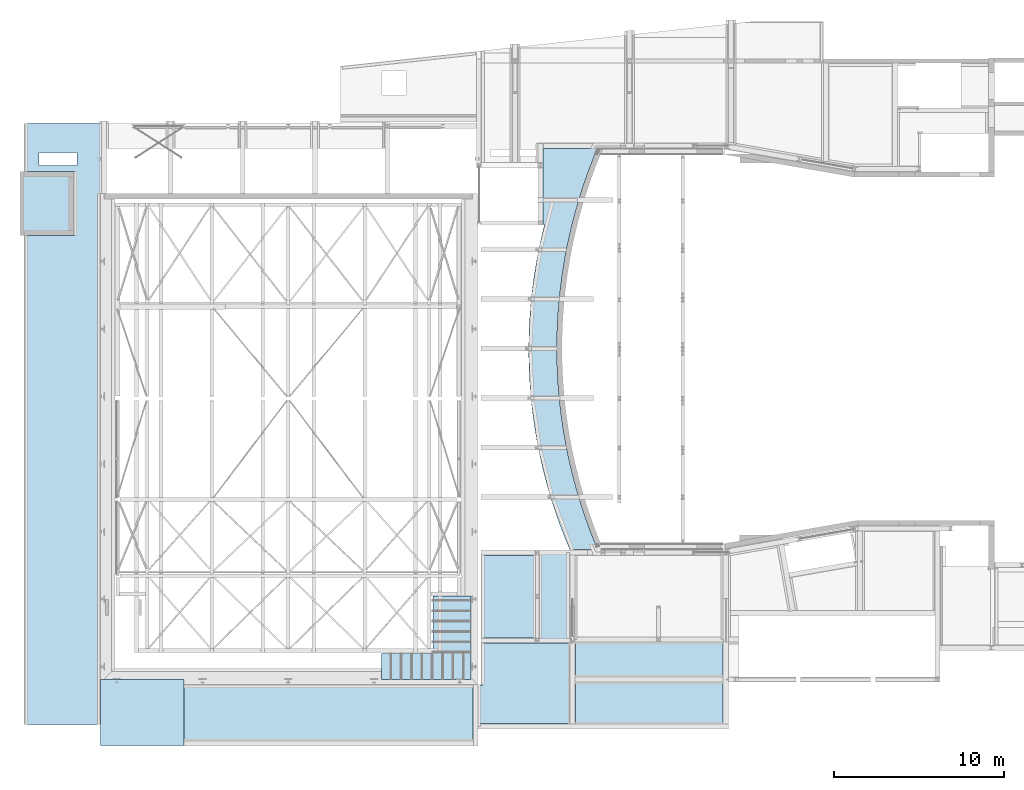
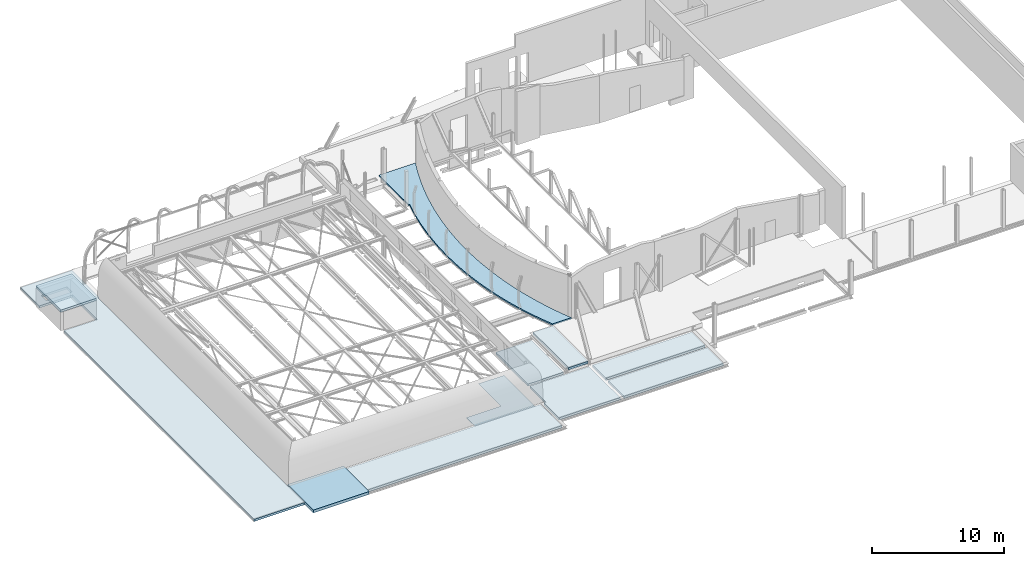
# One storey, part 29 of 38: 8 slabs, 14 openings.
"""IFC2X3 building model written with IfcOpenShell, lengths in millimetres."""

from ifc_helpers import new_model, entity, si_unit, converted_unit, derived_unit, direction, frame, frame_2d, origin, origin_2d_with_axis, place, context, subcontext, project, spatial, polyline, circle_curve, parameter, trimmed, segment, composite_curve, rectangle, outline, extrude, faceted_brep, material, layer, layer_set, layer_usage, type_object, element, save


model = new_model("IFC2X3")

# Units and contexts
model_context = context("Model", 3, precision=0.01, world=origin(), true_north=direction((6.12303176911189e-17, 1.0)))
body_context = subcontext(model_context, "Body", "Model", "MODEL_VIEW")
ifc_project = project(units=[si_unit("LENGTHUNIT", "METRE", prefix="MILLI"), si_unit("AREAUNIT", "SQUARE_METRE", prefix="MILLI"), si_unit("VOLUMEUNIT", "CUBIC_METRE"), converted_unit("PLANEANGLEUNIT", "DEGREE", entity("IfcRatioMeasure", 0.0174532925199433), si_unit("PLANEANGLEUNIT", "RADIAN"), dimensions=[0, 0, 0, 0, 0, 0, 0]), si_unit("MASSUNIT", "GRAM", prefix="KILO"), derived_unit("MASSDENSITYUNIT", [(si_unit("MASSUNIT", "GRAM", prefix="KILO"), 1), (si_unit("LENGTHUNIT", "METRE"), -3)]), derived_unit("MOMENTOFINERTIAUNIT", [(si_unit("LENGTHUNIT", "METRE"), 4)]), si_unit("TIMEUNIT", "SECOND"), si_unit("FREQUENCYUNIT", "HERTZ"), si_unit("THERMODYNAMICTEMPERATUREUNIT", "DEGREE_CELSIUS"), derived_unit("THERMALTRANSMITTANCEUNIT", [(si_unit("MASSUNIT", "GRAM", prefix="KILO"), 1), (si_unit("THERMODYNAMICTEMPERATUREUNIT", "KELVIN"), -1), (si_unit("TIMEUNIT", "SECOND"), -3)]), derived_unit("VOLUMETRICFLOWRATEUNIT", [(si_unit("LENGTHUNIT", "METRE"), 3), (si_unit("TIMEUNIT", "SECOND"), -1)]), si_unit("ELECTRICCURRENTUNIT", "AMPERE"), si_unit("ELECTRICVOLTAGEUNIT", "VOLT"), si_unit("POWERUNIT", "WATT"), si_unit("FORCEUNIT", "NEWTON", prefix="KILO"), si_unit("ILLUMINANCEUNIT", "LUX"), si_unit("LUMINOUSFLUXUNIT", "LUMEN"), si_unit("LUMINOUSINTENSITYUNIT", "CANDELA"), derived_unit("USERDEFINED", [(si_unit("MASSUNIT", "GRAM", prefix="KILO"), -1), (si_unit("LENGTHUNIT", "METRE"), -2), (si_unit("TIMEUNIT", "SECOND"), 3), (si_unit("LUMINOUSFLUXUNIT", "LUMEN"), 1)]), derived_unit("LINEARVELOCITYUNIT", [(si_unit("LENGTHUNIT", "METRE"), 1), (si_unit("TIMEUNIT", "SECOND"), -1)]), si_unit("PRESSUREUNIT", "PASCAL"), derived_unit("USERDEFINED", [(si_unit("LENGTHUNIT", "METRE"), -2), (si_unit("MASSUNIT", "GRAM", prefix="KILO"), 1), (si_unit("TIMEUNIT", "SECOND"), -2)]), derived_unit("LINEARFORCEUNIT", [(si_unit("MASSUNIT", "GRAM", prefix="KILO"), 1), (si_unit("LENGTHUNIT", "METRE"), 1), (si_unit("TIMEUNIT", "SECOND"), -2), (si_unit("LENGTHUNIT", "METRE"), -1)]), derived_unit("PLANARFORCEUNIT", [(si_unit("MASSUNIT", "GRAM", prefix="KILO"), 1), (si_unit("LENGTHUNIT", "METRE"), 1), (si_unit("TIMEUNIT", "SECOND"), -2), (si_unit("LENGTHUNIT", "METRE"), -2)])], contexts=[model_context])

# Site, building, storey
site_placement = place(None, origin())
site = spatial("IfcSite", under=ifc_project, at=site_placement, Name="Theater aan de Parade", CompositionType="ELEMENT")
building_placement = place(site_placement, origin())
building = spatial("IfcBuilding", under=site, at=building_placement, Name="Theater aan de Parade", CompositionType="ELEMENT")
storey_placement = place(building_placement, frame((0.0, 0.0, 12480.0)))
storey = spatial("IfcBuildingStorey", under=building, at=storey_placement, Name="03 derde verdieping", CompositionType="ELEMENT", Elevation=12480.0)

# Slab
ifc_material_1 = material(Name="00_PBT_MAT_beton prefab")
ifc_layer_1 = layer(ifc_material_1, 200.0)
ifc_layer_set_1 = layer_set([ifc_layer_1], Name="Floor:28_PBT_FL_beton prefab_d=200")
ifc_layer_usage_1 = layer_usage(ifc_layer_set_1, "AXIS3", "POSITIVE", 0.0)
slab_type_1 = type_object("IfcSlabType", Name="Floor:28_PBT_FL_beton prefab_d=200", PredefinedType="FLOOR", material=ifc_layer_set_1)
slab_1_placement = place(storey_placement, origin())
element("IfcSlab", 1, at=slab_1_placement, inside=storey, type_object=slab_type_1, material=ifc_layer_usage_1, Name="Floor:28_PBT_FL_beton prefab_d=200", ObjectType="Floor:28_PBT_FL_beton prefab_d=200", PredefinedType="FLOOR", context=body_context, shape_type="SweptSolid", body=[
    extrude(rectangle(XDim=3750.00000002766, YDim=3150.74444879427, at=frame_2d((4.32009983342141e-12, -1.13686837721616e-12), x_axis=(1.0, 0.0))), frame((11879.4847781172, 40995.0, 1600.0), z_axis=(0.0, 0.0, -1.0), x_axis=(0.0, 1.0, 0.0)), (0.0, 0.0, 1.0), 200.0),
])

# Slab, openings
ifc_material_2 = material(Name="00_PBT_MAT_systeemvloer")
ifc_layer_2 = layer(ifc_material_2, 200.0)
ifc_layer_set_2 = layer_set([ifc_layer_2], Name="Floor:28_PBT_FL_kanaalplaat_d=200")
ifc_layer_usage_2 = layer_usage(ifc_layer_set_2, "AXIS3", "POSITIVE", 0.0)
slab_type_2 = type_object("IfcSlabType", Name="Floor:28_PBT_FL_kanaalplaat_d=200", PredefinedType="FLOOR", material=ifc_layer_set_2)
slab_2_placement = place(storey_placement, frame((10604.1125537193, 10319.3270745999, -600.0)))
slab_2 = element("IfcSlab", 2, at=slab_2_placement, inside=storey, type_object=slab_type_2, material=ifc_layer_usage_2, Name="Floor:28_PBT_FL_kanaalplaat_d=200", ObjectType="Floor:28_PBT_FL_kanaalplaat_d=200", PredefinedType="FLOOR", context=body_context, shape_type="SweptSolid", body=[
    extrude(outline(polyline([(-655.87190850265, 14848.8364627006), (2244.87254029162, 14848.8364627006), (2244.87254029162, 17701.8364626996), (-2404.87254029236, 17701.8364626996), (-2404.87254029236, 13552.1447897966), (-2154.87190850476, 13552.1447897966), (-2154.87190850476, -17701.8364626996), (2244.87254029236, -17701.8364626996), (2244.87254029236, 11098.8364626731), (-655.871908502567, 11098.8364626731), (-655.87190850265, 14848.8364627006)])), frame((2244.87254029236, 17701.8364626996, 200.0), z_axis=(0.0, 0.0, -1.0), x_axis=(-1.0, 0.0, 0.0)), (0.0, 0.0, 1.0), 200.0),
])
opening_1_placement = place(slab_2_placement, frame((4384.74508058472, 31253.9812524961, -85.0)))
element("IfcOpeningElement", 3, at=opening_1_placement, cuts=slab_2, ObjectType="Opening", context=body_context, shape_type="Brep", body=[
    faceted_brep([(425.0, 0.0, 325.0), (425.0, 4274.6916729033, 325.0), (105.0, 4274.6916729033, 325.0), (105.0, 0.0, 325.0), (530.0, 4274.6916729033, 1.0), (530.0, 4274.6916729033, 2.0), (530.0, 3774.6916729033, 2.0), (530.0, 3774.6916729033, 1.0), (105.0, 4274.6916729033, 1.0), (0.0, 4274.6916729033, 1.0), (0.0, 4274.6916729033, 2.0), (105.0, 4274.6916729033, 0.0), (425.0, 4274.6916729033, 1.0), (425.0, 4274.6916729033, 0.0), (425.0, 4274.6916729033, 2.0), (105.0, 4274.6916729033, 2.0), (105.0, 0.0, 2.0), (105.0, 0.0, 1.0), (425.0, 0.0, 0.0), (105.0, 0.0, 0.0), (0.0, 0.0, 2.0), (0.0, 0.0, 1.0), (425.0, 3774.6916729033, 1.0), (425.0, 3774.6916729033, 2.0), (105.0, 3874.69167290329, 2.0), (105.0, 2650.0, 2.0), (105.0, 3874.69167290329, 1.0), (105.0, 2650.0, 1.0), (0.0, 2650.0, 2.0), (0.0, 2650.0, 1.0), (0.0, 3874.69167290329, 2.0), (0.0, 3874.69167290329, 1.0)], [[[0, 1, 2]], [[2, 3, 0]], [[4, 5, 6]], [[6, 7, 4]], [[8, 9, 10]], [[11, 8, 12]], [[12, 13, 11]], [[4, 12, 5]], [[8, 14, 12]], [[15, 2, 1]], [[15, 14, 8]], [[5, 12, 14]], [[1, 14, 15]], [[8, 10, 15]], [[16, 17, 18]], [[19, 18, 17]], [[17, 20, 21]], [[18, 0, 16]], [[3, 16, 0]], [[17, 16, 20]], [[22, 13, 12]], [[23, 14, 1]], [[23, 18, 22]], [[13, 22, 18]], [[1, 0, 23]], [[18, 23, 0]], [[15, 24, 2]], [[25, 2, 24]], [[26, 8, 11]], [[27, 26, 11]], [[26, 27, 24]], [[16, 3, 25]], [[2, 25, 3]], [[19, 17, 27]], [[11, 19, 27]], [[24, 27, 25]], [[19, 11, 13]], [[13, 18, 19]], [[16, 25, 28]], [[28, 20, 16]], [[27, 17, 21]], [[21, 29, 27]], [[21, 20, 28]], [[28, 29, 21]], [[29, 28, 25]], [[25, 27, 29]], [[5, 14, 23]], [[23, 6, 5]], [[12, 4, 7]], [[7, 22, 12]], [[7, 6, 23]], [[23, 22, 7]], [[15, 10, 30]], [[30, 24, 15]], [[9, 8, 26]], [[26, 31, 9]], [[26, 24, 30]], [[30, 31, 26]], [[31, 30, 10]], [[10, 9, 31]]]),
])
opening_2_placement = place(slab_2_placement, frame((8292.65971509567, 31253.9812524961, -85.0)))
element("IfcOpeningElement", 4, at=opening_2_placement, cuts=slab_2, ObjectType="Opening", context=body_context, shape_type="Brep", body=[
    faceted_brep([(105.0, 0.0, 325.0), (425.0, 4274.69167290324, 325.0), (105.0, 4274.69167290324, 325.0), (425.0, 0.0, 325.0), (105.0, 4274.69167290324, 1.0), (0.0, 4274.69167290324, 1.0), (0.0, 4274.69167290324, 2.0), (105.0, 4274.69167290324, 0.0), (425.0, 4274.69167290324, 1.0), (425.0, 4274.69167290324, 0.0), (530.0, 4274.69167290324, 1.0), (530.0, 4274.69167290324, 2.0), (425.0, 4274.69167290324, 2.0), (105.0, 4274.69167290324, 2.0), (105.0, 0.0, 0.0), (425.0, 0.0, 0.0), (425.0, 3774.69167290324, 1.0), (425.0, 3774.69167290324, 2.0), (105.0, 3874.69167290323, 2.0), (105.0, 3874.69167290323, 1.0), (530.0, 3774.69167290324, 2.0), (530.0, 3774.69167290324, 1.0), (0.0, 3874.69167290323, 2.0), (0.0, 3874.69167290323, 1.0)], [[[0, 1, 2]], [[1, 0, 3]], [[4, 5, 6]], [[7, 4, 8]], [[8, 9, 7]], [[10, 8, 11]], [[4, 12, 8]], [[13, 2, 1]], [[13, 12, 4]], [[11, 8, 12]], [[1, 12, 13]], [[4, 6, 13]], [[3, 14, 15]], [[14, 3, 0]], [[16, 9, 8]], [[17, 12, 1]], [[17, 15, 16]], [[9, 16, 15]], [[1, 3, 17]], [[15, 17, 3]], [[18, 2, 13]], [[19, 4, 7]], [[14, 0, 18]], [[2, 18, 0]], [[7, 14, 19]], [[18, 19, 14]], [[15, 7, 9]], [[7, 15, 14]], [[11, 12, 17]], [[17, 20, 11]], [[8, 10, 21]], [[21, 16, 8]], [[10, 11, 20]], [[20, 21, 10]], [[21, 20, 17]], [[17, 16, 21]], [[18, 6, 22]], [[6, 18, 13]], [[5, 4, 19]], [[19, 23, 5]], [[19, 18, 22]], [[22, 23, 19]], [[23, 22, 6]], [[6, 5, 23]]]),
])
opening_3_placement = place(slab_2_placement, frame((12549.7431170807, 31253.9812524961, -85.0)))
element("IfcOpeningElement", 5, at=opening_3_placement, cuts=slab_2, ObjectType="Opening", context=body_context, shape_type="Brep", body=[
    faceted_brep([(105.0, 0.0, 325.0), (425.0, 4274.69167290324, 325.0), (105.0, 4274.69167290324, 325.0), (425.0, 0.0, 325.0), (105.0, 4274.69167290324, 1.0), (0.0, 4274.69167290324, 1.0), (0.0, 4274.69167290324, 2.0), (105.0, 4274.69167290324, 0.0), (425.0, 4274.69167290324, 1.0), (425.0, 4274.69167290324, 0.0), (530.0, 4274.69167290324, 1.0), (530.0, 4274.69167290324, 2.0), (425.0, 4274.69167290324, 2.0), (105.0, 4274.69167290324, 2.0), (105.0, 0.0, 0.0), (425.0, 0.0, 0.0), (425.0, 3774.69167290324, 1.0), (425.0, 3774.69167290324, 2.0), (105.0, 3874.69167290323, 2.0), (105.0, 3874.69167290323, 1.0), (530.0, 3774.69167290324, 2.0), (530.0, 3774.69167290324, 1.0), (0.0, 3874.69167290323, 2.0), (0.0, 3874.69167290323, 1.0)], [[[0, 1, 2]], [[1, 0, 3]], [[4, 5, 6]], [[7, 4, 8]], [[8, 9, 7]], [[10, 8, 11]], [[4, 12, 8]], [[13, 2, 1]], [[13, 12, 4]], [[11, 8, 12]], [[1, 12, 13]], [[4, 6, 13]], [[3, 14, 15]], [[14, 3, 0]], [[16, 9, 8]], [[17, 12, 1]], [[17, 15, 16]], [[9, 16, 15]], [[1, 3, 17]], [[15, 17, 3]], [[18, 2, 13]], [[19, 4, 7]], [[14, 0, 18]], [[2, 18, 0]], [[7, 14, 19]], [[18, 19, 14]], [[15, 7, 9]], [[7, 15, 14]], [[11, 12, 17]], [[17, 20, 11]], [[8, 10, 21]], [[21, 16, 8]], [[10, 11, 20]], [[20, 21, 10]], [[21, 20, 17]], [[17, 16, 21]], [[18, 6, 22]], [[6, 18, 13]], [[5, 4, 19]], [[19, 23, 5]], [[19, 18, 22]], [[22, 23, 19]], [[23, 22, 6]], [[6, 5, 23]]]),
])
opening_4_placement = place(slab_2_placement, frame((16806.8265190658, 31253.9812524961, -85.0)))
element("IfcOpeningElement", 6, at=opening_4_placement, cuts=slab_2, ObjectType="Opening", context=body_context, shape_type="Brep", body=[
    faceted_brep([(105.0, 0.0, 325.0), (425.0, 4274.69167290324, 325.0), (105.0, 4274.69167290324, 325.0), (425.0, 0.0, 325.0), (105.0, 4274.69167290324, 1.0), (0.0, 4274.69167290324, 1.0), (0.0, 4274.69167290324, 2.0), (105.0, 4274.69167290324, 0.0), (425.0, 4274.69167290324, 1.0), (425.0, 4274.69167290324, 0.0), (530.0, 4274.69167290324, 1.0), (530.0, 4274.69167290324, 2.0), (425.0, 4274.69167290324, 2.0), (105.0, 4274.69167290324, 2.0), (105.0, 0.0, 0.0), (425.0, 0.0, 0.0), (425.0, 3774.69167290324, 1.0), (425.0, 3774.69167290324, 2.0), (105.0, 3874.69167290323, 2.0), (105.0, 3874.69167290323, 1.0), (530.0, 3774.69167290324, 2.0), (530.0, 3774.69167290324, 1.0), (0.0, 3874.69167290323, 2.0), (0.0, 3874.69167290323, 1.0)], [[[0, 1, 2]], [[1, 0, 3]], [[4, 5, 6]], [[7, 4, 8]], [[8, 9, 7]], [[10, 8, 11]], [[4, 12, 8]], [[13, 2, 1]], [[13, 12, 4]], [[11, 8, 12]], [[1, 12, 13]], [[4, 6, 13]], [[3, 14, 15]], [[14, 3, 0]], [[16, 9, 8]], [[17, 12, 1]], [[17, 15, 16]], [[9, 16, 15]], [[1, 3, 17]], [[15, 17, 3]], [[18, 2, 13]], [[19, 4, 7]], [[14, 0, 18]], [[2, 18, 0]], [[7, 14, 19]], [[18, 19, 14]], [[15, 7, 9]], [[7, 15, 14]], [[11, 12, 17]], [[17, 20, 11]], [[8, 10, 21]], [[21, 16, 8]], [[10, 11, 20]], [[20, 21, 10]], [[21, 20, 17]], [[17, 16, 21]], [[18, 6, 22]], [[6, 18, 13]], [[5, 4, 19]], [[19, 23, 5]], [[19, 18, 22]], [[22, 23, 19]], [[23, 22, 6]], [[6, 5, 23]]]),
])
opening_5_placement = place(slab_2_placement, origin())
element("IfcOpeningElement", 7, at=opening_5_placement, cuts=slab_2, ObjectType="Opening", context=body_context, shape_type="SweptSolid", body=[
    extrude(rectangle(XDim=320.000000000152, YDim=4226.69167290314, at=origin_2d_with_axis()), frame((21328.909921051, 33367.3270889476, -85.0), z_axis=(0.0, 0.0, 1.0), x_axis=(-1.0, 0.0, 0.0)), (0.0, 0.0, 1.0), 325.0),
])
opening_6_placement = place(slab_2_placement, origin())
element("IfcOpeningElement", 8, at=opening_6_placement, cuts=slab_2, ObjectType="Opening", context=body_context, shape_type="SweptSolid", body=[
    extrude(rectangle(XDim=2250.0, YDim=760.0, at=origin_2d_with_axis()), frame((1945.19067888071, 33300.6729249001, 0.0), z_axis=(0.0, 0.0, 1.0), x_axis=(-1.0, 0.0, 0.0)), (0.0, 0.0, 1.0), 200.0),
])

# Slabs
ifc_material_3 = material(Name="00_PBT_MAT_beton t.p.g._C30/37")
ifc_layer_3 = layer(ifc_material_3, 130.0)
ifc_layer_set_3 = layer_set([ifc_layer_3], Name="Floor:28_PBT_FL_staalplaatbeton_d=130_C30/37")
ifc_layer_usage_3 = layer_usage(ifc_layer_set_3, "AXIS3", "POSITIVE", 0.0)
slab_type_3 = type_object("IfcSlabType", Name="Floor:28_PBT_FL_staalplaatbeton_d=130_C30/37", PredefinedType="FLOOR", material=ifc_layer_set_3)
slab_3_placement = place(storey_placement, origin())
element("IfcSlab", 9, at=slab_3_placement, inside=storey, type_object=slab_type_3, material=ifc_layer_usage_3, Name="Floor:28_PBT_FL_staalplaatbeton_d=130_C30/37", ObjectType="Floor:28_PBT_FL_staalplaatbeton_d=130_C30/37", PredefinedType="FLOOR", context=body_context, shape_type="SweptSolid", body=[
    extrude(outline(composite_curve([segment(polyline([(-1869.62899750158, -14245.0), (-223.054382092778, -14245.0)]), True, "CONTINUOUS"), segment(trimmed(circle_curve(frame_2d((-27532.5125848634, -2505.1179861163), x_axis=(0.918708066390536, -0.394937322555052)), 29725.9371086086), [parameter(0.0)], [parameter(37.637346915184)], True, "PARAMETER"), True, "CONTINUOUS"), segment(polyline([(1262.71610933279, 4875.0), (1344.51509467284, 4875.0)]), True, "CONTINUOUS"), segment(polyline([(1344.51509467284, 4875.0), (1344.51509467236, 9370.0)]), True, "CONTINUOUS"), segment(polyline([(1344.51509467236, 9370.0), (-1859.06291908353, 9370.0)]), True, "CONTINUOUS"), segment(trimmed(circle_curve(frame_2d((-29801.6267778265, -2425.0), x_axis=(0.921284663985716, 0.388888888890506)), 30330.0), [parameter(314.177967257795)], [parameter(0.0)], True, "PARAMETER"), False, "CONTINUOUS")], self_intersect=False)), frame((42458.3732221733, 34875.0, 200.0), z_axis=(0.0, 0.0, -1.0), x_axis=(-1.0, 0.0, 0.0)), (0.0, 0.0, 1.0), 130.000000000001),
])
ifc_layer_4 = layer(ifc_material_2, 200.0)
ifc_layer_set_4 = layer_set([ifc_layer_4], Name="Floor:28_PBT_FL_massieve plaat_d=200")
ifc_layer_usage_4 = layer_usage(ifc_layer_set_4, "AXIS3", "POSITIVE", 0.0)
slab_type_4 = type_object("IfcSlabType", Name="Floor:28_PBT_FL_massieve plaat_d=200", PredefinedType="FLOOR", material=ifc_layer_set_4)
slab_4_placement = place(storey_placement, origin())
element("IfcSlab", 10, at=slab_4_placement, inside=storey, type_object=slab_type_4, material=ifc_layer_usage_4, Name="Floor:28_PBT_FL_massieve plaat_d=200", ObjectType="Floor:28_PBT_FL_massieve plaat_d=200", PredefinedType="FLOOR", context=body_context, shape_type="SweptSolid", body=[
    extrude(rectangle(XDim=3262.22676970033, YDim=17034.7511275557, at=frame_2d((1.12095221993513e-10, 0.0), x_axis=(1.0, 0.0))), frame((28471.2325663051, 10988.1133848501, -400.0), z_axis=(0.0, 0.0, -1.0), x_axis=(0.0, 1.0, 0.0)), (0.0, 0.0, 1.0), 200.0),
])
ifc_layer_5 = layer(ifc_material_3, 260.0)
ifc_layer_set_5 = layer_set([ifc_layer_5], Name="Floor:28_PBT_FL_beton t.p.g._d=260_C30/37")
ifc_layer_usage_5 = layer_usage(ifc_layer_set_5, "AXIS3", "POSITIVE", 0.0)
slab_type_5 = type_object("IfcSlabType", Name="Floor:28_PBT_FL_beton t.p.g._d=260_C30/37", PredefinedType="FLOOR", material=ifc_layer_set_5)
slab_5_placement = place(storey_placement, origin())
element("IfcSlab", 11, at=slab_5_placement, inside=storey, type_object=slab_type_5, material=ifc_layer_usage_5, Name="Floor:28_PBT_FL_beton t.p.g._d=260_C30/37", ObjectType="Floor:28_PBT_FL_beton t.p.g._d=260_C30/37", PredefinedType="FLOOR", context=body_context, shape_type="SweptSolid", body=[
    extrude(rectangle(XDim=3909.22676969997, YDim=4900.00000000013, at=frame_2d((4.54747350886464e-13, 1.13686837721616e-12), x_axis=(1.0, 0.0))), frame((17503.8570025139, 11014.6133848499, -340.0), z_axis=(0.0, 0.0, -1.0), x_axis=(0.0, 1.0, 0.0)), (0.0, 0.0, 1.0), 259.999999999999),
])

# Slab, openings
ifc_layer_usage_6 = layer_usage(ifc_layer_set_2, "AXIS3", "POSITIVE", 0.0)
slab_type_6 = type_object("IfcSlabType", Name="Floor:28_PBT_FL_kanaalplaat_d=200", PredefinedType="FLOOR", material=ifc_layer_set_2)
slab_6_placement = place(storey_placement, frame((37308.6081300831, 10357.0, -600.0)))
slab_6 = element("IfcSlab", 12, at=slab_6_placement, inside=storey, type_object=slab_type_6, material=ifc_layer_usage_6, Name="Floor:28_PBT_FL_kanaalplaat_d=200", ObjectType="Floor:28_PBT_FL_kanaalplaat_d=200", PredefinedType="FLOOR", context=body_context, shape_type="SweptSolid", body=[
    extrude(outline(polyline([(7001.0985147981, -2696.77323029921), (7001.0985147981, 4959.0), (3742.21272171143, 4959.0), (3742.21272171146, -176.515889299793), (1510.04748144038, -176.515889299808), (1510.04748144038, -161.515889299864), (-7370.34851479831, -161.515889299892), (-7370.34851479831, -5119.0), (7355.3485147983, -5119.0), (7355.34851479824, -2696.77323029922), (7001.0985147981, -2696.77323029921)])), frame((7196.34851479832, 4959.0, 200.0), z_axis=(0.0, 0.0, -1.0), x_axis=(-1.0, 0.0, 0.0)), (0.0, 0.0, 1.0), 200.0),
])
opening_7_placement = place(slab_6_placement, origin())
element("IfcOpeningElement", 13, at=opening_7_placement, cuts=slab_6, ObjectType="Opening", context=body_context, shape_type="SweptSolid", body=[
    extrude(rectangle(XDim=340.000000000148, YDim=4965.51588929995, at=origin_2d_with_axis()), frame((5536.30103335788, 7455.24205535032, 255.0)), (0.0, 0.0, 1.0), 404.999999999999),
])
opening_8_placement = place(slab_6_placement, origin())
element("IfcOpeningElement", 14, at=opening_8_placement, cuts=slab_6, ObjectType="Opening", context=body_context, shape_type="SweptSolid", body=[
    extrude(rectangle(XDim=320.00000000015, YDim=14736.6970295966, at=origin_2d_with_axis()), frame((7348.34851479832, -160.0, -5.0), z_axis=(0.0, 0.0, 1.0), x_axis=(0.0, 1.0, 0.0)), (0.0, 0.0, 1.0), 265.0),
])
opening_9_placement = place(slab_6_placement, origin())
element("IfcOpeningElement", 15, at=opening_9_placement, cuts=slab_6, ObjectType="Opening", context=body_context, shape_type="SweptSolid", body=[
    extrude(rectangle(XDim=3612.2267697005, YDim=320.000000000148, at=origin_2d_with_axis()), frame((-160.0, 506.113384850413, -5.0), z_axis=(0.0, 0.0, 1.0), x_axis=(0.0, -1.0, 0.0)), (0.0, 0.0, 1.0), 325.0),
])
opening_10_placement = place(slab_6_placement, origin())
element("IfcOpeningElement", 16, at=opening_10_placement, cuts=slab_6, ObjectType="Opening", context=body_context, shape_type="SweptSolid", body=[
    extrude(rectangle(XDim=340.000000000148, YDim=7357.22740149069, at=origin_2d_with_axis()), frame((5536.301033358, 3658.61370074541, -205.0), z_axis=(0.0, 0.0, 1.0), x_axis=(-1.0, 0.0, 0.0)), (0.0, 0.0, 1.0), 404.999999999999),
])
opening_11_placement = place(slab_6_placement, origin())
element("IfcOpeningElement", 17, at=opening_11_placement, cuts=slab_6, ObjectType="Opening", context=body_context, shape_type="SweptSolid", body=[
    extrude(rectangle(XDim=348.000000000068, YDim=7383.01520977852, at=origin_2d_with_axis()), frame((14566.6970295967, 3671.50760488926, -120.0), z_axis=(0.0, 0.0, 1.0), x_axis=(-1.0, 0.0, 0.0)), (0.0, 0.0, 1.0), 400.0),
])
opening_12_placement = place(slab_6_placement, frame((5686.30103335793, 2333.0, -5.0)))
element("IfcOpeningElement", 18, at=opening_12_placement, cuts=slab_6, ObjectType="Opening", context=body_context, shape_type="Brep", body=[
    faceted_brep([(8726.39599623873, 105.0, 265.0), (8726.39599623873, 425.0, 265.0), (0.0, 425.0, 265.0), (0.0, 105.0, 265.0), (8726.39599623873, 0.0, 2.0), (8726.39599623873, 0.0, 1.0), (8726.39599623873, 105.0, 1.0), (8726.39599623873, 425.0, 1.0), (8726.39599623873, 105.0, 0.0), (8726.39599623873, 425.0, 0.0), (8726.39599623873, 530.0, 2.0), (8726.39599623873, 530.0, 1.0), (8726.39599623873, 425.0, 2.0), (8726.39599623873, 105.0, 2.0), (0.0, 105.0, 1.0), (0.0, 0.0, 1.0), (0.0, 0.0, 2.0), (0.0, 105.0, 0.0), (0.0, 425.0, 1.0), (0.0, 425.0, 0.0), (0.0, 530.0, 1.0), (0.0, 530.0, 2.0), (0.0, 425.0, 2.0), (0.0, 105.0, 2.0), (8226.39599623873, 425.0, 1.0), (8226.39599623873, 425.0, 2.0), (150.0, 425.0, 1.0), (150.0, 425.0, 2.0), (8326.39599623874, 105.0, 2.0), (8326.39599623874, 105.0, 1.0), (100.0, 105.0, 1.0), (100.0, 105.0, 2.0), (150.0, 530.0, 2.0), (150.0, 530.0, 1.0), (100.0, 0.0, 2.0), (100.0, 0.0, 1.0), (8226.39599623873, 530.0, 2.0), (8226.39599623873, 530.0, 1.0), (8326.39599623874, 0.0, 2.0), (8326.39599623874, 0.0, 1.0)], [[[0, 1, 2]], [[2, 3, 0]], [[4, 5, 6]], [[7, 6, 8]], [[8, 9, 7]], [[10, 7, 11]], [[7, 12, 6]], [[1, 0, 13]], [[6, 12, 13]], [[12, 7, 10]], [[13, 12, 1]], [[13, 4, 6]], [[14, 15, 16]], [[17, 14, 18]], [[18, 19, 17]], [[20, 18, 21]], [[14, 22, 18]], [[23, 3, 2]], [[23, 22, 14]], [[21, 18, 22]], [[2, 22, 23]], [[14, 16, 23]], [[9, 24, 7]], [[24, 9, 19]], [[1, 12, 25]], [[1, 25, 2]], [[24, 26, 25]], [[26, 19, 18]], [[19, 26, 24]], [[27, 22, 2]], [[27, 2, 25]], [[26, 27, 25]], [[0, 28, 13]], [[28, 0, 3]], [[8, 6, 29]], [[8, 29, 17]], [[28, 30, 29]], [[31, 3, 23]], [[3, 31, 28]], [[30, 14, 17]], [[30, 17, 29]], [[31, 30, 28]], [[9, 8, 17]], [[17, 19, 9]], [[22, 27, 32]], [[32, 21, 22]], [[20, 33, 18]], [[26, 18, 33]], [[32, 27, 26]], [[26, 33, 32]], [[21, 32, 33]], [[33, 20, 21]], [[34, 31, 23]], [[23, 16, 34]], [[15, 14, 30]], [[30, 35, 15]], [[34, 16, 15]], [[15, 35, 34]], [[31, 34, 35]], [[35, 30, 31]], [[25, 12, 10]], [[10, 36, 25]], [[37, 11, 7]], [[7, 24, 37]], [[36, 10, 11]], [[11, 37, 36]], [[25, 36, 37]], [[37, 24, 25]], [[38, 4, 13]], [[13, 28, 38]], [[29, 6, 39]], [[5, 39, 6]], [[38, 28, 29]], [[29, 39, 38]], [[4, 38, 39]], [[39, 5, 4]]]),
])
opening_13_placement = place(slab_6_placement, origin())
element("IfcOpeningElement", 19, at=opening_13_placement, cuts=slab_6, ObjectType="Opening", context=body_context, shape_type="SweptSolid", body=[
    extrude(rectangle(XDim=300.000000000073, YDim=5241.05103335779, at=origin_2d_with_axis()), frame((2765.77551667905, 4902.48411070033, 0.0), z_axis=(0.0, 0.0, 1.0), x_axis=(0.0, 1.0, 0.0)), (0.0, 0.0, 1.0), 200.0),
])
opening_14_placement = place(slab_6_placement, origin())
element("IfcOpeningElement", 20, at=opening_14_placement, cuts=slab_6, ObjectType="Opening", context=body_context, shape_type="SweptSolid", body=[
    extrude(rectangle(XDim=4885.51588929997, YDim=240.000000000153, at=origin_2d_with_axis()), frame((3454.13579308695, 7495.24205535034, 0.0), z_axis=(0.0, 0.0, 1.0), x_axis=(0.0, 1.0, 0.0)), (0.0, 0.0, 1.0), 205.000000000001),
])

# Slabs
ifc_layer_usage_7 = layer_usage(ifc_layer_set_2, "AXIS3", "POSITIVE", 0.0)
slab_type_7 = type_object("IfcSlabType", Name="Floor:28_PBT_FL_kanaalplaat_d=200", PredefinedType="FLOOR", material=ifc_layer_set_2)
slab_7_placement = place(storey_placement, origin())
element("IfcSlab", 21, at=slab_7_placement, inside=storey, type_object=slab_type_7, material=ifc_layer_usage_7, Name="Floor:28_PBT_FL_kanaalplaat_d=200", ObjectType="Floor:28_PBT_FL_kanaalplaat_d=200", PredefinedType="FLOOR", context=body_context, shape_type="SweptSolid", body=[
    extrude(rectangle(XDim=5405.51588929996, YDim=1727.16524027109, at=frame_2d((4.32009983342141e-12, -4.32009983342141e-12), x_axis=(1.0, 0.0))), frame((41786.3265433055, 17882.24205535, 60.0), z_axis=(0.0, 0.0, -1.0), x_axis=(0.0, 1.0, 0.0)), (0.0, 0.0, 1.0), 200.0),
])
ifc_material_4 = material(Name="00_PBT_MAT_hout")
ifc_layer_6 = layer(ifc_material_4, 24.0)
ifc_layer_set_6 = layer_set([ifc_layer_6], Name="Floor:28_PBT_FL_hout_d=24")
ifc_layer_usage_8 = layer_usage(ifc_layer_set_6, "AXIS3", "POSITIVE", 0.0)
slab_type_8 = type_object("IfcSlabType", Name="Floor:28_PBT_FL_hout_d=24", PredefinedType="FLOOR", material=ifc_layer_set_6)
slab_8_placement = place(storey_placement, origin())
element("IfcSlab", 22, at=slab_8_placement, inside=storey, type_object=slab_type_8, material=ifc_layer_usage_8, Name="Floor:28_PBT_FL_hout_d=24", ObjectType="Floor:28_PBT_FL_hout_d=24", PredefinedType="FLOOR", context=body_context, shape_type="SweptSolid", body=[
    extrude(outline(polyline([(-2147.38184371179, -2769.00509815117), (-630.317989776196, -2769.00509815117), (-630.317989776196, 268.002634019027), (2777.69983348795, 268.002634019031), (2777.69983348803, 2501.00246413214), (-2147.38184371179, 2501.00246413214), (-2147.38184371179, -2769.00509815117)])), frame((34352.8556659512, 15116.608613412, -860.0), z_axis=(0.0, 0.0, -1.0), x_axis=(0.0, 1.0, 0.0)), (0.0, 0.0, 1.0), 24.000000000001),
])

save(model, "model.ifc")
